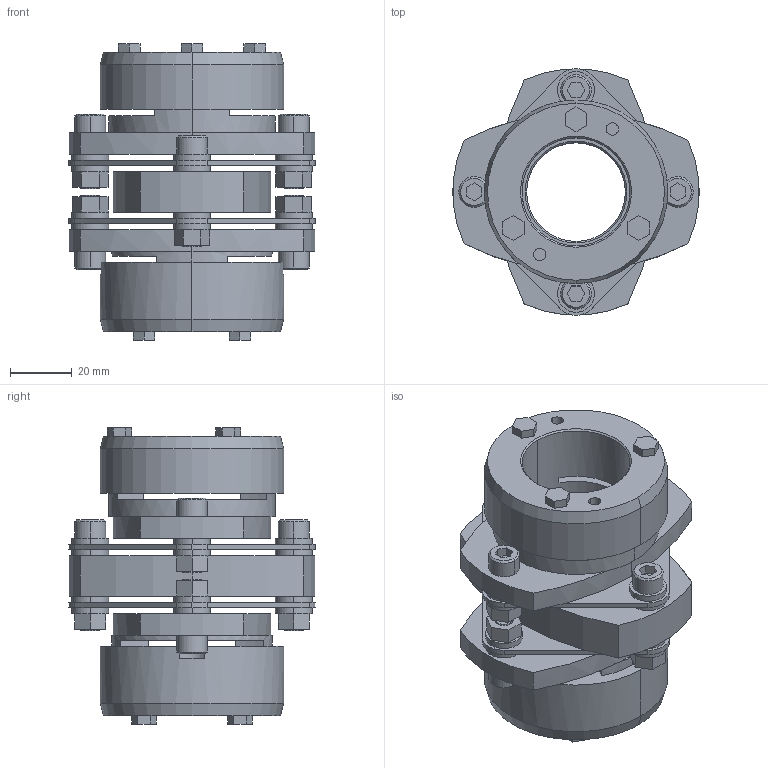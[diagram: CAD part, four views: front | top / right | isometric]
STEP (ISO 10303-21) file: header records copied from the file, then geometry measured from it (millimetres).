
FILE_DESCRIPTION((''),'2;1');
FILE_NAME('LCD-80T7-32×35.stp','2011-09-15T14:33:45',(''),(''),'AutoCAD STEP 2000i','AutoCAD 2000i',', , ');
FILE_SCHEMA(('CONFIG_CONTROL_DESIGN'));
Length unit declared in the file: millimetre
Products named in the file (13): LCD-80T7-32×35; 忣兜1; LC80T7-T035; LC80T7-T032-1; LC80T7-T032; LC80T7-T030; LC80T7-T028; LC80T7-T024; LC80T7-T022; LC80T7-T019; LC80T7-T017-1; LC80T7-T017; LCD80-ITA
Assembly tree (12 placements, depth 2):
  LCD-80T7-32×35
    忣兜1
    LC80T7-T035
    LC80T7-T032-1
    LC80T7-T032
    LC80T7-T030
    LC80T7-T028
    LC80T7-T024
    LC80T7-T022
    LC80T7-T019
    LC80T7-T017-1
    LC80T7-T017
    LCD80-ITA
Bounding box: 80 x 79.95 x 96.1 mm (x, y, z)
Volume: 174256.6 mm3; surface area: 58340.3 mm2
Topology: 1 solids, 1 shells, 337 faces, 826 edges, 540 vertices
Faces by surface type: plane 191, cylinder 122, cone 24
Entity records: 10283 total; most frequent: DIRECTION 1830, CARTESIAN_POINT 1716, ORIENTED_EDGE 1652, EDGE_CURVE 826, AXIS2_PLACEMENT_3D 654, VERTEX_POINT 540, VECTOR 522, LINE 522
